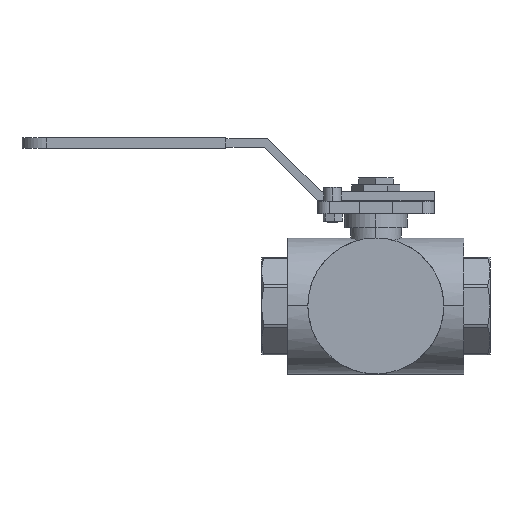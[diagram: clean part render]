
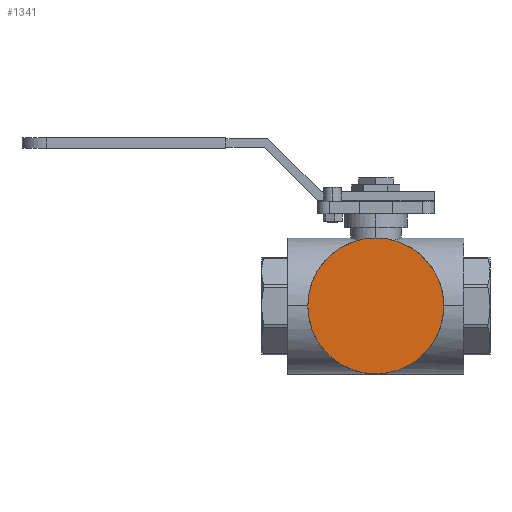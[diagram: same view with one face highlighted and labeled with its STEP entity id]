
A CAD part, top view. The second image highlights one B-rep face of the part: STEP entity #1341.
In plain terms, the highlighted planar face has unit normal (0, 0, 1).
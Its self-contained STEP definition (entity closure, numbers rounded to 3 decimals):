
#711 = DIRECTION ( 'NONE',  ( -1., 0., 0. ) ) ;
#923 = EDGE_CURVE ( 'NONE', #3495, #3720, #4770, .T. ) ;
#1040 = ORIENTED_EDGE ( 'NONE', *, *, #923, .T. ) ;
#1129 = AXIS2_PLACEMENT_3D ( 'NONE', #2508, #6166, #3034 ) ;
#1306 = FACE_OUTER_BOUND ( 'NONE', #3971, .T. ) ;
#1314 = CARTESIAN_POINT ( 'NONE',  ( -39., 0., 39. ) ) ;
#1341 = ADVANCED_FACE ( 'NONE', ( #1306 ), #3304, .F. ) ;
#1573 = CARTESIAN_POINT ( 'NONE',  ( 0., 0., 39. ) ) ;
#2088 = DIRECTION ( 'NONE',  ( 1., 0., 0. ) ) ;
#2147 = ORIENTED_EDGE ( 'NONE', *, *, #5714, .T. ) ;
#2508 = CARTESIAN_POINT ( 'NONE',  ( 0., 0., 39. ) ) ;
#2615 = CIRCLE ( 'NONE', #5779, 39. ) ;
#3034 = DIRECTION ( 'NONE',  ( 1., 0., 0. ) ) ;
#3304 = PLANE ( 'NONE',  #6254 ) ;
#3495 = VERTEX_POINT ( 'NONE', #6333 ) ;
#3720 = VERTEX_POINT ( 'NONE', #1314 ) ;
#3828 = DIRECTION ( 'NONE',  ( 0., 0., -1. ) ) ;
#3971 = EDGE_LOOP ( 'NONE', ( #2147, #1040 ) ) ;
#4770 = CIRCLE ( 'NONE', #1129, 39. ) ;
#5216 = DIRECTION ( 'NONE',  ( 0., 0., 1. ) ) ;
#5714 = EDGE_CURVE ( 'NONE', #3720, #3495, #2615, .T. ) ;
#5779 = AXIS2_PLACEMENT_3D ( 'NONE', #1573, #5216, #2088 ) ;
#6166 = DIRECTION ( 'NONE',  ( 0., 0., 1. ) ) ;
#6254 = AXIS2_PLACEMENT_3D ( 'NONE', #6447, #3828, #711 ) ;
#6333 = CARTESIAN_POINT ( 'NONE',  ( 39., 0., 39. ) ) ;
#6447 = CARTESIAN_POINT ( 'NONE',  ( 0., 39., 39. ) ) ;
